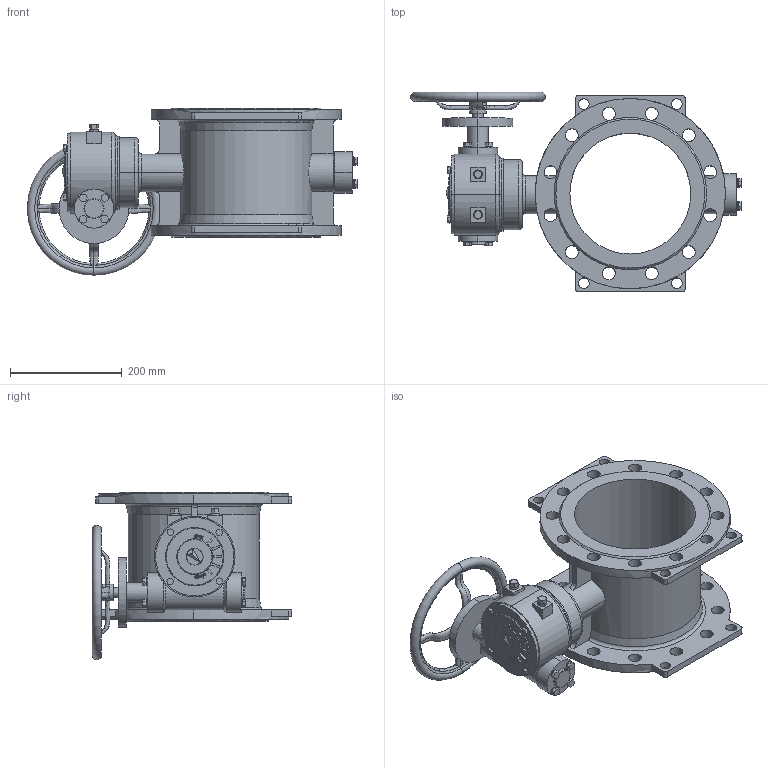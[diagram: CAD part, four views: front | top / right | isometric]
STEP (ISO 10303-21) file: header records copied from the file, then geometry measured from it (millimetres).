
FILE_DESCRIPTION (( 'STEP AP203' ), '1' );
FILE_NAME ('DN200 PN16.STEP', '2014-09-25T08:40:43', ( '微软用户' ), ( 'Sky123.Org' ), 'SwSTEP 2.0', 'SolidWorks 2012', '' );
FILE_SCHEMA (( 'CONFIG_CONTROL_DESIGN' ));
Length unit declared in the file: millimetre
Products named in the file (1): DN200 PN16
Bounding box: 589.97 x 356.22 x 298.97 mm (x, y, z)
Volume: 6701810.4 mm3; surface area: 853190.8 mm2
Topology: 3 solids, 3 shells, 615 faces, 1602 edges, 1033 vertices
Faces by surface type: plane 320, cylinder 174, bspline 56, cone 33, torus 32
Entity records: 26192 total; most frequent: CARTESIAN_POINT 10981, ORIENTED_EDGE 3204, DIRECTION 3041, EDGE_CURVE 1602, AXIS2_PLACEMENT_3D 1089, VERTEX_POINT 1033, VECTOR 863, LINE 863
